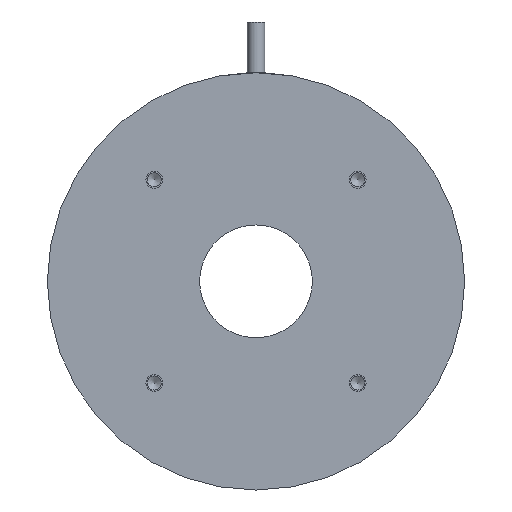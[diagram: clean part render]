
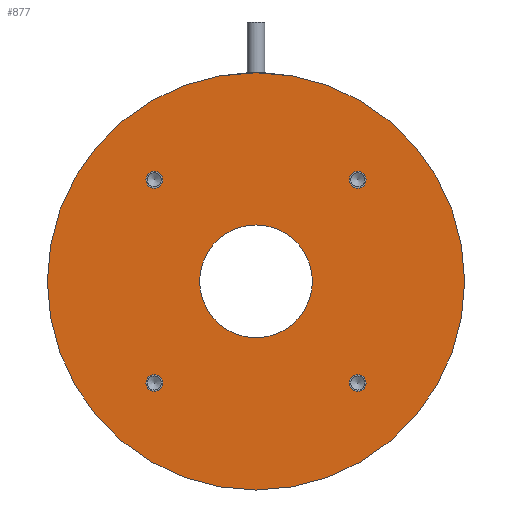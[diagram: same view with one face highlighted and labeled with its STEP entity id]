
A CAD part, front view. The second image highlights one B-rep face of the part: STEP entity #877.
In plain terms, the highlighted planar face has unit normal (0, -1, 0).
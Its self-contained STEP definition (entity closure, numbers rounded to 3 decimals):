
#65=FACE_BOUND('',#255,.T.);
#66=FACE_BOUND('',#256,.T.);
#67=FACE_BOUND('',#257,.T.);
#68=FACE_BOUND('',#258,.T.);
#69=FACE_BOUND('',#259,.T.);
#159=PLANE('',#1010);
#202=FACE_OUTER_BOUND('',#254,.T.);
#254=EDGE_LOOP('',(#732));
#255=EDGE_LOOP('',(#733,#734));
#256=EDGE_LOOP('',(#735,#736));
#257=EDGE_LOOP('',(#737,#738));
#258=EDGE_LOOP('',(#739,#740));
#259=EDGE_LOOP('',(#741,#742));
#302=CIRCLE('',#937,37.);
#315=CIRCLE('',#956,1.5);
#316=CIRCLE('',#957,1.5);
#322=CIRCLE('',#966,1.5);
#323=CIRCLE('',#967,1.5);
#329=CIRCLE('',#976,1.5);
#330=CIRCLE('',#977,1.5);
#336=CIRCLE('',#986,1.5);
#337=CIRCLE('',#987,1.5);
#348=CIRCLE('',#1002,10.);
#349=CIRCLE('',#1003,10.);
#391=VERTEX_POINT('',#1401);
#408=VERTEX_POINT('',#1482);
#409=VERTEX_POINT('',#1484);
#416=VERTEX_POINT('',#1503);
#417=VERTEX_POINT('',#1505);
#424=VERTEX_POINT('',#1524);
#425=VERTEX_POINT('',#1526);
#432=VERTEX_POINT('',#1545);
#433=VERTEX_POINT('',#1547);
#444=VERTEX_POINT('',#1577);
#445=VERTEX_POINT('',#1578);
#486=EDGE_CURVE('',#391,#391,#302,.T.);
#510=EDGE_CURVE('',#408,#409,#315,.T.);
#511=EDGE_CURVE('',#409,#408,#316,.T.);
#520=EDGE_CURVE('',#416,#417,#322,.T.);
#521=EDGE_CURVE('',#417,#416,#323,.T.);
#530=EDGE_CURVE('',#424,#425,#329,.T.);
#531=EDGE_CURVE('',#425,#424,#330,.T.);
#540=EDGE_CURVE('',#432,#433,#336,.T.);
#541=EDGE_CURVE('',#433,#432,#337,.T.);
#555=EDGE_CURVE('',#444,#445,#348,.T.);
#556=EDGE_CURVE('',#445,#444,#349,.T.);
#732=ORIENTED_EDGE('',*,*,#486,.T.);
#733=ORIENTED_EDGE('',*,*,#511,.F.);
#734=ORIENTED_EDGE('',*,*,#510,.F.);
#735=ORIENTED_EDGE('',*,*,#521,.F.);
#736=ORIENTED_EDGE('',*,*,#520,.F.);
#737=ORIENTED_EDGE('',*,*,#531,.F.);
#738=ORIENTED_EDGE('',*,*,#530,.F.);
#739=ORIENTED_EDGE('',*,*,#541,.F.);
#740=ORIENTED_EDGE('',*,*,#540,.F.);
#741=ORIENTED_EDGE('',*,*,#555,.T.);
#742=ORIENTED_EDGE('',*,*,#556,.T.);
#877=ADVANCED_FACE('',(#202,#65,#66,#67,#68,#69),#159,.F.);
#937=AXIS2_PLACEMENT_3D('',#1402,#1091,#1092);
#956=AXIS2_PLACEMENT_3D('',#1485,#1137,#1138);
#957=AXIS2_PLACEMENT_3D('',#1486,#1139,#1140);
#966=AXIS2_PLACEMENT_3D('',#1506,#1160,#1161);
#967=AXIS2_PLACEMENT_3D('',#1507,#1162,#1163);
#976=AXIS2_PLACEMENT_3D('',#1527,#1183,#1184);
#977=AXIS2_PLACEMENT_3D('',#1528,#1185,#1186);
#986=AXIS2_PLACEMENT_3D('',#1548,#1206,#1207);
#987=AXIS2_PLACEMENT_3D('',#1549,#1208,#1209);
#1002=AXIS2_PLACEMENT_3D('',#1579,#1241,#1242);
#1003=AXIS2_PLACEMENT_3D('',#1580,#1243,#1244);
#1010=AXIS2_PLACEMENT_3D('',#1593,#1259,#1260);
#1091=DIRECTION('center_axis',(0.,-1.,0.));
#1092=DIRECTION('ref_axis',(0.,0.,-1.));
#1137=DIRECTION('center_axis',(0.,-1.,0.));
#1138=DIRECTION('ref_axis',(0.,0.,-1.));
#1139=DIRECTION('center_axis',(0.,-1.,0.));
#1140=DIRECTION('ref_axis',(0.,0.,-1.));
#1160=DIRECTION('center_axis',(0.,-1.,0.));
#1161=DIRECTION('ref_axis',(0.,0.,-1.));
#1162=DIRECTION('center_axis',(0.,-1.,0.));
#1163=DIRECTION('ref_axis',(0.,0.,-1.));
#1183=DIRECTION('center_axis',(0.,-1.,0.));
#1184=DIRECTION('ref_axis',(0.,0.,-1.));
#1185=DIRECTION('center_axis',(0.,-1.,0.));
#1186=DIRECTION('ref_axis',(0.,0.,-1.));
#1206=DIRECTION('center_axis',(0.,-1.,0.));
#1207=DIRECTION('ref_axis',(0.,0.,-1.));
#1208=DIRECTION('center_axis',(0.,-1.,0.));
#1209=DIRECTION('ref_axis',(0.,0.,-1.));
#1241=DIRECTION('center_axis',(0.,1.,0.));
#1242=DIRECTION('ref_axis',(0.,0.,1.));
#1243=DIRECTION('center_axis',(0.,1.,0.));
#1244=DIRECTION('ref_axis',(0.,0.,1.));
#1259=DIRECTION('center_axis',(0.,1.,0.));
#1260=DIRECTION('ref_axis',(0.,0.,1.));
#1401=CARTESIAN_POINT('',(0.,0.,37.));
#1402=CARTESIAN_POINT('Origin',(0.,0.,0.));
#1482=CARTESIAN_POINT('',(18.031,0.,19.531));
#1484=CARTESIAN_POINT('',(18.031,0.,16.531));
#1485=CARTESIAN_POINT('Origin',(18.031,0.,18.031));
#1486=CARTESIAN_POINT('Origin',(18.031,0.,18.031));
#1503=CARTESIAN_POINT('',(18.031,0.,-16.531));
#1505=CARTESIAN_POINT('',(18.031,0.,-19.531));
#1506=CARTESIAN_POINT('Origin',(18.031,0.,-18.031));
#1507=CARTESIAN_POINT('Origin',(18.031,0.,-18.031));
#1524=CARTESIAN_POINT('',(-18.031,0.,-16.531));
#1526=CARTESIAN_POINT('',(-18.031,0.,-19.531));
#1527=CARTESIAN_POINT('Origin',(-18.031,0.,-18.031));
#1528=CARTESIAN_POINT('Origin',(-18.031,0.,-18.031));
#1545=CARTESIAN_POINT('',(-18.031,0.,19.531));
#1547=CARTESIAN_POINT('',(-18.031,0.,16.531));
#1548=CARTESIAN_POINT('Origin',(-18.031,0.,18.031));
#1549=CARTESIAN_POINT('Origin',(-18.031,0.,18.031));
#1577=CARTESIAN_POINT('',(0.,0.,10.));
#1578=CARTESIAN_POINT('',(0.,0.,-10.));
#1579=CARTESIAN_POINT('Origin',(0.,0.,0.));
#1580=CARTESIAN_POINT('Origin',(0.,0.,0.));
#1593=CARTESIAN_POINT('Origin',(0.,0.,0.));
